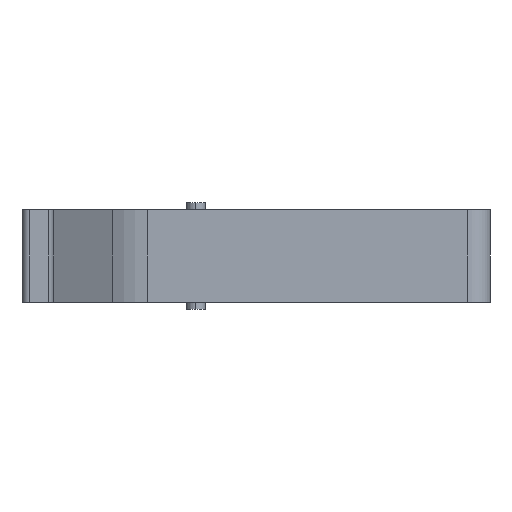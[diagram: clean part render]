
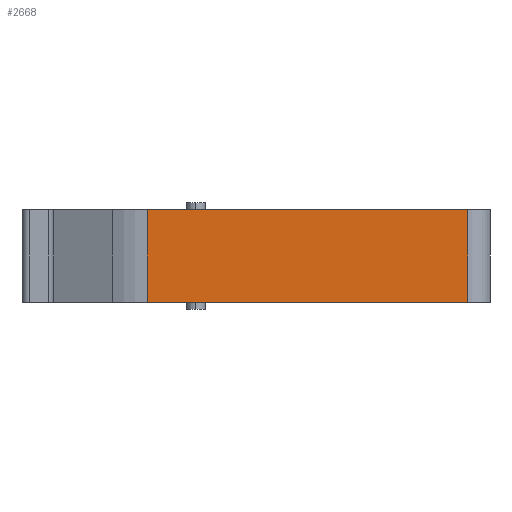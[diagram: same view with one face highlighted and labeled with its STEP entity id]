
A CAD part, left-side view. The second image highlights one B-rep face of the part: STEP entity #2668.
In plain terms, the highlighted planar face has unit normal (-1, 0, 0).
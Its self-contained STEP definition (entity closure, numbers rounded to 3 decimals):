
#102 = CARTESIAN_POINT ( 'NONE',  ( -62.53, 13.239, 11.5 ) ) ;
#110 = DIRECTION ( 'NONE',  ( 0., 0., 1. ) ) ;
#266 = DIRECTION ( 'NONE',  ( 1., 0., 0. ) ) ;
#276 = LINE ( 'NONE', #1012, #282 ) ;
#282 = VECTOR ( 'NONE', #1195, 1000. ) ;
#476 = CARTESIAN_POINT ( 'NONE',  ( -62.53, 45.66, 11.5 ) ) ;
#500 = CARTESIAN_POINT ( 'NONE',  ( -62.53, -73.84, 11.5 ) ) ;
#512 = VERTEX_POINT ( 'NONE', #1285 ) ;
#787 = AXIS2_PLACEMENT_3D ( 'NONE', #3450, #266, #3693 ) ;
#1012 = CARTESIAN_POINT ( 'NONE',  ( -62.53, 45.66, -13.5 ) ) ;
#1067 = EDGE_LOOP ( 'NONE', ( #2639, #2308, #3447, #2918 ) ) ;
#1195 = DIRECTION ( 'NONE',  ( 0., -1., 0. ) ) ;
#1285 = CARTESIAN_POINT ( 'NONE',  ( -62.53, 13.239, 11.5 ) ) ;
#1627 = EDGE_CURVE ( 'NONE', #512, #2231, #3632, .T. ) ;
#1998 = VERTEX_POINT ( 'NONE', #2614 ) ;
#2231 = VERTEX_POINT ( 'NONE', #3657 ) ;
#2256 = VERTEX_POINT ( 'NONE', #2671 ) ;
#2298 = FACE_OUTER_BOUND ( 'NONE', #1067, .T. ) ;
#2303 = EDGE_CURVE ( 'NONE', #2231, #1998, #276, .T. ) ;
#2308 = ORIENTED_EDGE ( 'NONE', *, *, #2317, .T. ) ;
#2317 = EDGE_CURVE ( 'NONE', #1998, #2256, #3137, .T. ) ;
#2321 = EDGE_CURVE ( 'NONE', #512, #2256, #3140, .T. ) ;
#2614 = CARTESIAN_POINT ( 'NONE',  ( -62.53, -73.84, -13.5 ) ) ;
#2639 = ORIENTED_EDGE ( 'NONE', *, *, #2303, .T. ) ;
#2668 = ADVANCED_FACE ( 'NONE', ( #2298 ), #3371, .F. ) ;
#2671 = CARTESIAN_POINT ( 'NONE',  ( -62.53, -73.84, 11.5 ) ) ;
#2883 = DIRECTION ( 'NONE',  ( 0., 0., -1. ) ) ;
#2918 = ORIENTED_EDGE ( 'NONE', *, *, #1627, .T. ) ;
#3123 = VECTOR ( 'NONE', #3663, 1000. ) ;
#3137 = LINE ( 'NONE', #500, #3143 ) ;
#3140 = LINE ( 'NONE', #476, #3123 ) ;
#3143 = VECTOR ( 'NONE', #110, 1000. ) ;
#3371 = PLANE ( 'NONE',  #787 ) ;
#3447 = ORIENTED_EDGE ( 'NONE', *, *, #2321, .F. ) ;
#3450 = CARTESIAN_POINT ( 'NONE',  ( -62.53, 45.66, 11.5 ) ) ;
#3619 = VECTOR ( 'NONE', #2883, 1000. ) ;
#3632 = LINE ( 'NONE', #102, #3619 ) ;
#3657 = CARTESIAN_POINT ( 'NONE',  ( -62.53, 13.239, -13.5 ) ) ;
#3663 = DIRECTION ( 'NONE',  ( 0., -1., 0. ) ) ;
#3693 = DIRECTION ( 'NONE',  ( 0., 1., 0. ) ) ;
